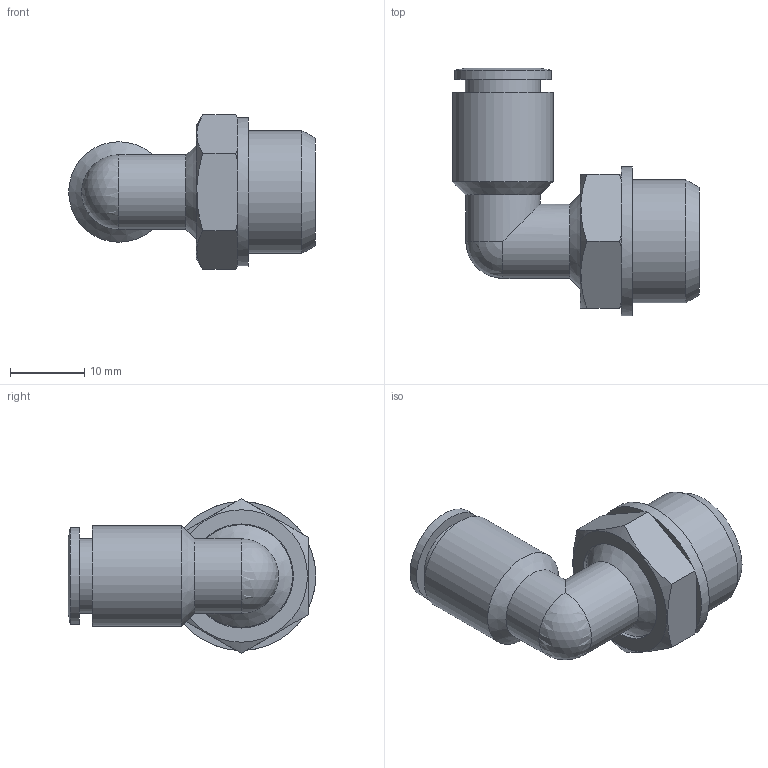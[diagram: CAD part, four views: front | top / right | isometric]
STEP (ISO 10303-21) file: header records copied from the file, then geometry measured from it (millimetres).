
FILE_DESCRIPTION((''),'2;1');
FILE_NAME('C:\Documents and Settings\rivolro1\Documenti\copia di Raccordi\PLASTICA\T22XXXX\T220838.stp','2007-11-02T14:27:28',('Rivolro1'),(''),'Autodesk Inventor 2008','Autodesk Inventor 2008','');
FILE_SCHEMA(('AUTOMOTIVE_DESIGN { 1 0 10303 214 1 1 1 1 }'));
Length unit declared in the file: millimetre
Products named in the file (1): T220838
Bounding box: 33.15 x 33.25 x 20.78 mm (x, y, z)
Volume: 4479.3 mm3; surface area: 4236.2 mm2
Topology: 1 solids, 1 shells, 45 faces, 98 edges, 56 vertices
Faces by surface type: plane 21, cone 11, cylinder 10, bspline 2, sphere 1
Full cylindrical faces by diameter (mm): 8.8 x1, 10 x2, 10.1 x1, 13 x1, 13.5 x1, 13.8 x1, 14 x1, 16.5 x1, 20 x1
Entity records: 1178 total; most frequent: CARTESIAN_POINT 265, DIRECTION 182, ORIENTED_EDGE 144, AXIS2_PLACEMENT_3D 84, EDGE_CURVE 72, EDGE_LOOP 68, VERTEX_POINT 50, FACE_OUTER_BOUND 45
